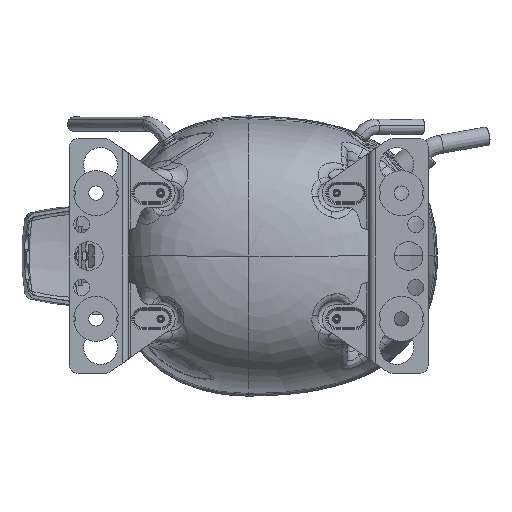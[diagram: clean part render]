
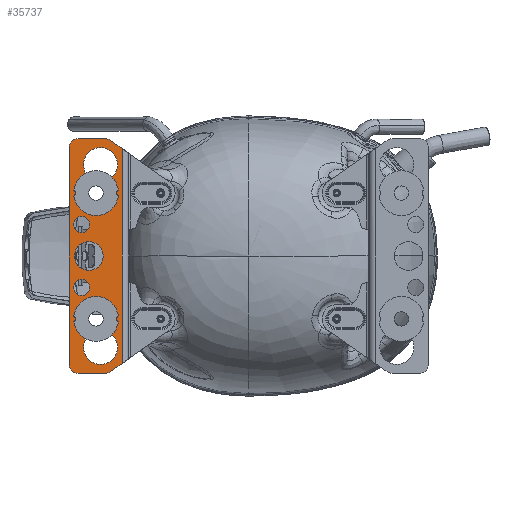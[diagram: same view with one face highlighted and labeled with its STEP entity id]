
A CAD part, front view. The second image highlights one B-rep face of the part: STEP entity #35737.
In plain terms, the highlighted planar face has unit normal (0, -1, 0) as drawn and (0, 1, 0) by its records, which use the part's own axes.
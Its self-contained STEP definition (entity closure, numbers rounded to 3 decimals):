
#33874=CARTESIAN_POINT('',(33.5,2.5,50.8));
#33875=DIRECTION('',(0.,1.,0.));
#33876=DIRECTION('',(-0.35,0.,-0.937));
#33877=AXIS2_PLACEMENT_3D('',#33874,#33875,#33876);
#33879=CARTESIAN_POINT('',(40.449,2.5,42.857));
#33880=DIRECTION('',(0.,1.,0.));
#33881=DIRECTION('',(-0.658,0.,-0.753));
#33882=AXIS2_PLACEMENT_3D('',#33879,#33880,#33881);
#33884=CARTESIAN_POINT('',(36.,2.5,35.));
#33885=DIRECTION('',(0.,1.,0.));
#33886=DIRECTION('',(0.469,0.,0.883));
#33887=AXIS2_PLACEMENT_3D('',#33884,#33885,#33886);
#33889=CARTESIAN_POINT('',(29.395,2.5,41.192));
#33890=DIRECTION('',(0.,1.,0.));
#33891=DIRECTION('',(0.741,0.,0.672));
#33892=AXIS2_PLACEMENT_3D('',#33889,#33890,#33891);
#33894=CARTESIAN_POINT('',(44.,2.5,17.5));
#33895=DIRECTION('',(0.,1.,0.));
#33896=DIRECTION('',(1.,0.,0.));
#33897=AXIS2_PLACEMENT_3D('',#33894,#33895,#33896);
#33899=CARTESIAN_POINT('',(44.,2.5,17.5));
#33900=DIRECTION('',(0.,1.,0.));
#33901=DIRECTION('',(-1.,0.,0.));
#33902=AXIS2_PLACEMENT_3D('',#33899,#33900,#33901);
#33904=CARTESIAN_POINT('',(40.,2.5,0.));
#33905=DIRECTION('',(0.,1.,0.));
#33906=DIRECTION('',(-1.,0.,0.));
#33907=AXIS2_PLACEMENT_3D('',#33904,#33905,#33906);
#33909=CARTESIAN_POINT('',(40.,2.5,0.));
#33910=DIRECTION('',(0.,1.,0.));
#33911=DIRECTION('',(1.,0.,0.));
#33912=AXIS2_PLACEMENT_3D('',#33909,#33910,#33911);
#33914=CARTESIAN_POINT('',(44.,2.5,-17.5));
#33915=DIRECTION('',(0.,1.,0.));
#33916=DIRECTION('',(1.,0.,0.));
#33917=AXIS2_PLACEMENT_3D('',#33914,#33915,#33916);
#33919=CARTESIAN_POINT('',(44.,2.5,-17.5));
#33920=DIRECTION('',(0.,1.,0.));
#33921=DIRECTION('',(-1.,0.,0.));
#33922=AXIS2_PLACEMENT_3D('',#33919,#33920,#33921);
#33924=CARTESIAN_POINT('',(33.5,2.5,-50.8));
#33925=DIRECTION('',(0.,1.,0.));
#33926=DIRECTION('',(0.645,0.,0.764));
#33927=AXIS2_PLACEMENT_3D('',#33924,#33925,#33926);
#33929=CARTESIAN_POINT('',(29.389,2.5,-41.187));
#33930=DIRECTION('',(0.,1.,0.));
#33931=DIRECTION('',(0.73,0.,0.683));
#33932=AXIS2_PLACEMENT_3D('',#33929,#33930,#33931);
#33934=CARTESIAN_POINT('',(36.,2.5,-35.));
#33935=DIRECTION('',(0.,1.,0.));
#33936=DIRECTION('',(-0.73,0.,-0.683));
#33937=AXIS2_PLACEMENT_3D('',#33934,#33935,#33936);
#33939=CARTESIAN_POINT('',(40.41,2.5,-42.835));
#33940=DIRECTION('',(0.,1.,0.));
#33941=DIRECTION('',(-0.745,0.,-0.667));
#33942=AXIS2_PLACEMENT_3D('',#33939,#33940,#33941);
#33944=DIRECTION('',(0.,0.,-1.));
#33945=VECTOR('',#33944,119.454);
#33946=CARTESIAN_POINT('',(21.365,2.5,59.727));
#33947=LINE('',#33946,#33945);
#33948=DIRECTION('',(0.819,0.,-0.574));
#33949=VECTOR('',#33948,8.139);
#33950=CARTESIAN_POINT('',(21.365,2.5,-59.727));
#33951=LINE('',#33950,#33949);
#33952=CARTESIAN_POINT('',(30.9,2.5,-60.3));
#33953=DIRECTION('',(0.,1.,0.));
#33954=DIRECTION('',(0.,0.,-1.));
#33955=AXIS2_PLACEMENT_3D('',#33952,#33953,#33954);
#33957=DIRECTION('',(1.,0.,0.));
#33958=VECTOR('',#33957,15.1);
#33959=CARTESIAN_POINT('',(30.9,2.5,-65.3));
#33960=LINE('',#33959,#33958);
#33961=CARTESIAN_POINT('',(46.,2.5,-60.3));
#33962=DIRECTION('',(0.,1.,0.));
#33963=DIRECTION('',(1.,0.,0.));
#33964=AXIS2_PLACEMENT_3D('',#33961,#33962,#33963);
#33966=DIRECTION('',(0.,0.,1.));
#33967=VECTOR('',#33966,120.6);
#33968=CARTESIAN_POINT('',(51.,2.5,-60.3));
#33969=LINE('',#33968,#33967);
#33970=CARTESIAN_POINT('',(46.,2.5,60.3));
#33971=DIRECTION('',(0.,1.,0.));
#33972=DIRECTION('',(0.,0.,1.));
#33973=AXIS2_PLACEMENT_3D('',#33970,#33971,#33972);
#33975=CARTESIAN_POINT('',(30.901,2.5,60.3));
#33976=DIRECTION('',(0.,1.,0.));
#33977=DIRECTION('',(-0.574,0.,0.819));
#33978=AXIS2_PLACEMENT_3D('',#33975,#33976,#33977);
#33980=DIRECTION('',(-0.819,0.,-0.574));
#33981=VECTOR('',#33980,8.139);
#33982=CARTESIAN_POINT('',(28.033,2.5,64.396));
#33983=LINE('',#33982,#33981);
#35276=DIRECTION('',(1.,0.,0.));
#35277=VECTOR('',#35276,15.099);
#35278=CARTESIAN_POINT('',(30.901,2.5,65.3));
#35279=LINE('',#35278,#35277);
#35304=CARTESIAN_POINT('',(48.5,2.5,17.5));
#35305=CARTESIAN_POINT('',(39.5,2.5,17.5));
#35306=VERTEX_POINT('',#35304);
#35307=VERTEX_POINT('',#35305);
#35312=CARTESIAN_POINT('',(32.,2.5,0.));
#35313=CARTESIAN_POINT('',(48.,2.5,0.));
#35314=VERTEX_POINT('',#35312);
#35315=VERTEX_POINT('',#35313);
#35324=CARTESIAN_POINT('',(48.5,2.5,-17.5));
#35325=CARTESIAN_POINT('',(39.5,2.5,-17.5));
#35326=VERTEX_POINT('',#35324);
#35327=VERTEX_POINT('',#35325);
#35340=CARTESIAN_POINT('',(30.159,2.5,-40.466));
#35341=CARTESIAN_POINT('',(39.624,2.5,-42.132));
#35342=VERTEX_POINT('',#35340);
#35343=VERTEX_POINT('',#35341);
#35344=CARTESIAN_POINT('',(39.755,2.5,42.064));
#35345=CARTESIAN_POINT('',(30.176,2.5,40.484));
#35346=VERTEX_POINT('',#35344);
#35347=VERTEX_POINT('',#35345);
#35364=CARTESIAN_POINT('',(39.624,2.5,-43.537));
#35365=VERTEX_POINT('',#35364);
#35366=CARTESIAN_POINT('',(30.159,2.5,-41.907));
#35367=VERTEX_POINT('',#35366);
#35368=CARTESIAN_POINT('',(30.176,2.5,41.901));
#35369=VERTEX_POINT('',#35368);
#35370=CARTESIAN_POINT('',(39.755,2.5,43.65));
#35371=VERTEX_POINT('',#35370);
#35592=CARTESIAN_POINT('',(21.365,2.5,59.727));
#35593=CARTESIAN_POINT('',(21.365,2.5,-59.727));
#35594=VERTEX_POINT('',#35592);
#35595=VERTEX_POINT('',#35593);
#35632=CARTESIAN_POINT('',(51.,2.5,-60.3));
#35633=CARTESIAN_POINT('',(46.,2.5,-65.3));
#35634=VERTEX_POINT('',#35632);
#35635=VERTEX_POINT('',#35633);
#35636=CARTESIAN_POINT('',(51.,2.5,60.3));
#35637=VERTEX_POINT('',#35636);
#35638=CARTESIAN_POINT('',(46.,2.5,65.3));
#35639=VERTEX_POINT('',#35638);
#35648=CARTESIAN_POINT('',(30.9,2.5,-65.3));
#35649=CARTESIAN_POINT('',(28.033,2.5,-64.396));
#35650=VERTEX_POINT('',#35648);
#35651=VERTEX_POINT('',#35649);
#35652=CARTESIAN_POINT('',(28.033,2.5,64.396));
#35653=CARTESIAN_POINT('',(30.901,2.5,65.3));
#35654=VERTEX_POINT('',#35652);
#35655=VERTEX_POINT('',#35653);
#35672=CARTESIAN_POINT('',(70.,2.5,-100.));
#35673=DIRECTION('',(0.,1.,0.));
#35674=DIRECTION('',(-1.,0.,0.));
#35675=AXIS2_PLACEMENT_3D('',#35672,#35673,#35674);
#35676=PLANE('',#35675);
#35678=ORIENTED_EDGE('',*,*,#35677,.T.);
#35680=ORIENTED_EDGE('',*,*,#35679,.T.);
#35682=ORIENTED_EDGE('',*,*,#35681,.F.);
#35684=ORIENTED_EDGE('',*,*,#35683,.T.);
#35686=ORIENTED_EDGE('',*,*,#35685,.F.);
#35688=ORIENTED_EDGE('',*,*,#35687,.T.);
#35690=ORIENTED_EDGE('',*,*,#35689,.F.);
#35692=ORIENTED_EDGE('',*,*,#35691,.F.);
#35694=ORIENTED_EDGE('',*,*,#35693,.F.);
#35696=ORIENTED_EDGE('',*,*,#35695,.T.);
#35697=EDGE_LOOP('',(#35678,#35680,#35682,#35684,#35686,#35688,#35690,#35692,
#35694,#35696));
#35698=FACE_OUTER_BOUND('',#35697,.F.);
#35700=ORIENTED_EDGE('',*,*,#35699,.T.);
#35702=ORIENTED_EDGE('',*,*,#35701,.T.);
#35703=EDGE_LOOP('',(#35700,#35702));
#35704=FACE_BOUND('',#35703,.F.);
#35706=ORIENTED_EDGE('',*,*,#35705,.T.);
#35708=ORIENTED_EDGE('',*,*,#35707,.T.);
#35709=EDGE_LOOP('',(#35706,#35708));
#35710=FACE_BOUND('',#35709,.F.);
#35712=ORIENTED_EDGE('',*,*,#35711,.T.);
#35714=ORIENTED_EDGE('',*,*,#35713,.T.);
#35715=EDGE_LOOP('',(#35712,#35714));
#35716=FACE_BOUND('',#35715,.F.);
#35718=ORIENTED_EDGE('',*,*,#35717,.T.);
#35720=ORIENTED_EDGE('',*,*,#35719,.F.);
#35722=ORIENTED_EDGE('',*,*,#35721,.T.);
#35724=ORIENTED_EDGE('',*,*,#35723,.F.);
#35725=EDGE_LOOP('',(#35718,#35720,#35722,#35724));
#35726=FACE_BOUND('',#35725,.F.);
#35728=ORIENTED_EDGE('',*,*,#35727,.T.);
#35730=ORIENTED_EDGE('',*,*,#35729,.F.);
#35732=ORIENTED_EDGE('',*,*,#35731,.T.);
#35734=ORIENTED_EDGE('',*,*,#35733,.F.);
#35735=EDGE_LOOP('',(#35728,#35730,#35732,#35734));
#35736=FACE_BOUND('',#35735,.F.);
#35737=ADVANCED_FACE('',(#35698,#35704,#35710,#35716,#35726,#35736),#35676,.T.);
#33878=CIRCLE('',#33877,9.5);
#33883=CIRCLE('',#33882,1.054);
#33888=CIRCLE('',#33887,8.);
#33893=CIRCLE('',#33892,1.054);
#33898=CIRCLE('',#33897,4.5);
#33903=CIRCLE('',#33902,4.5);
#33908=CIRCLE('',#33907,8.);
#33913=CIRCLE('',#33912,8.);
#33918=CIRCLE('',#33917,4.5);
#33923=CIRCLE('',#33922,4.5);
#33928=CIRCLE('',#33927,9.5);
#33933=CIRCLE('',#33932,1.054);
#33938=CIRCLE('',#33937,8.);
#33943=CIRCLE('',#33942,1.054);
#33956=CIRCLE('',#33955,5.);
#33965=CIRCLE('',#33964,5.);
#33974=CIRCLE('',#33973,5.);
#33979=CIRCLE('',#33978,5.);
#35677=EDGE_CURVE('',#35594,#35595,#33947,.T.);
#35679=EDGE_CURVE('',#35595,#35651,#33951,.T.);
#35681=EDGE_CURVE('',#35650,#35651,#33956,.T.);
#35683=EDGE_CURVE('',#35650,#35635,#33960,.T.);
#35685=EDGE_CURVE('',#35634,#35635,#33965,.T.);
#35687=EDGE_CURVE('',#35634,#35637,#33969,.T.);
#35689=EDGE_CURVE('',#35639,#35637,#33974,.T.);
#35691=EDGE_CURVE('',#35655,#35639,#35279,.T.);
#35693=EDGE_CURVE('',#35654,#35655,#33979,.T.);
#35695=EDGE_CURVE('',#35654,#35594,#33983,.T.);
#35699=EDGE_CURVE('',#35306,#35307,#33898,.T.);
#35701=EDGE_CURVE('',#35307,#35306,#33903,.T.);
#35705=EDGE_CURVE('',#35314,#35315,#33908,.T.);
#35707=EDGE_CURVE('',#35315,#35314,#33913,.T.);
#35711=EDGE_CURVE('',#35326,#35327,#33918,.T.);
#35713=EDGE_CURVE('',#35327,#35326,#33923,.T.);
#35717=EDGE_CURVE('',#35365,#35367,#33928,.T.);
#35719=EDGE_CURVE('',#35342,#35367,#33933,.T.);
#35721=EDGE_CURVE('',#35342,#35343,#33938,.T.);
#35723=EDGE_CURVE('',#35365,#35343,#33943,.T.);
#35727=EDGE_CURVE('',#35369,#35371,#33878,.T.);
#35729=EDGE_CURVE('',#35346,#35371,#33883,.T.);
#35731=EDGE_CURVE('',#35346,#35347,#33888,.T.);
#35733=EDGE_CURVE('',#35369,#35347,#33893,.T.);
